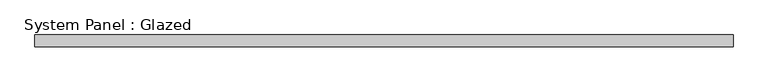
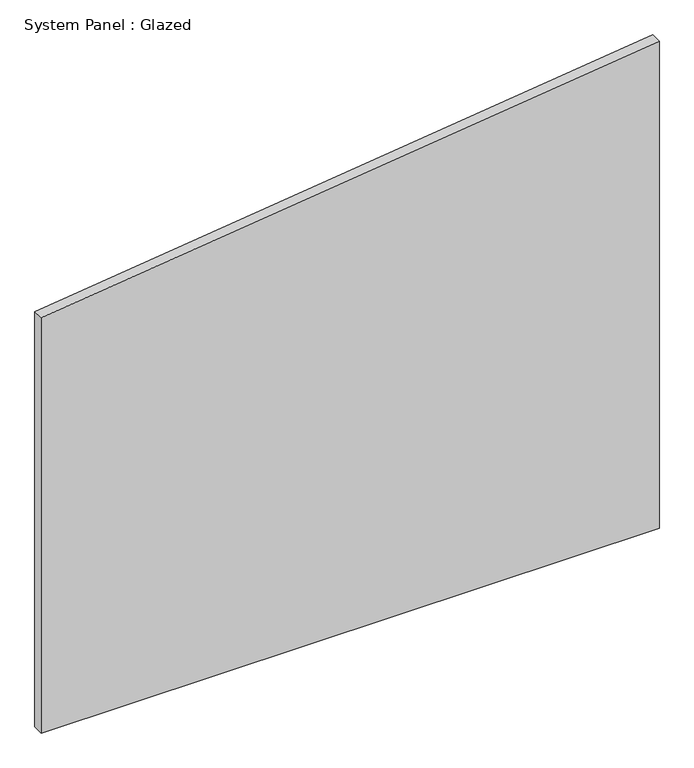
"""IFC4 building model written with IfcOpenShell, lengths in millimetres: plate geometry, System Panel : Glazed."""

from ifc_helpers import new_model, si_unit, frame, origin, place, context, project, spatial, polyline, outline, extrude, source, transform, mapped, element, save


def system_panel_glazed_98017830(model_context):
    return source(origin(), model_context, "Body", "SweptSolid", [
        extrude(outline(polyline([(0.0, -726.9631579), (0.0, 726.9631579), (1211.004913, 726.9631579), (1032.4852088, -726.9631579), (0.0, -726.9631579)])), frame((0.0, 24.5, 0.0), z_axis=(0.0, 1.0, 0.0), x_axis=(0.0, 0.0, 1.0)), (0.0, 0.0, 1.0), 25.0),
    ])


if __name__ == "__main__":
    model = new_model("IFC4")
    model_context = context("Model", 3, world=origin())
    ifc_project = project(units=[si_unit("LENGTHUNIT", "METRE", prefix="MILLI")], contexts=[model_context])
    site = spatial("IfcSite", under=ifc_project)
    building = spatial("IfcBuilding", under=site)
    placement = place(None, origin())
    system_panel_glazed_shape = system_panel_glazed_98017830(model_context)
    element("IfcPlate", 1, ObjectType="System Panel : Glazed", at=placement, inside=building, context=model_context, shape_type="MappedRepresentation", body=[
        mapped(system_panel_glazed_shape, transform((0.0, 0.0, 0.0), x_axis=(1.0, 0.0, 0.0), y_axis=(0.0, 1.0, 0.0), z_axis=(0.0, 0.0, 1.0))),
    ])
    save(model, "model.ifc")
